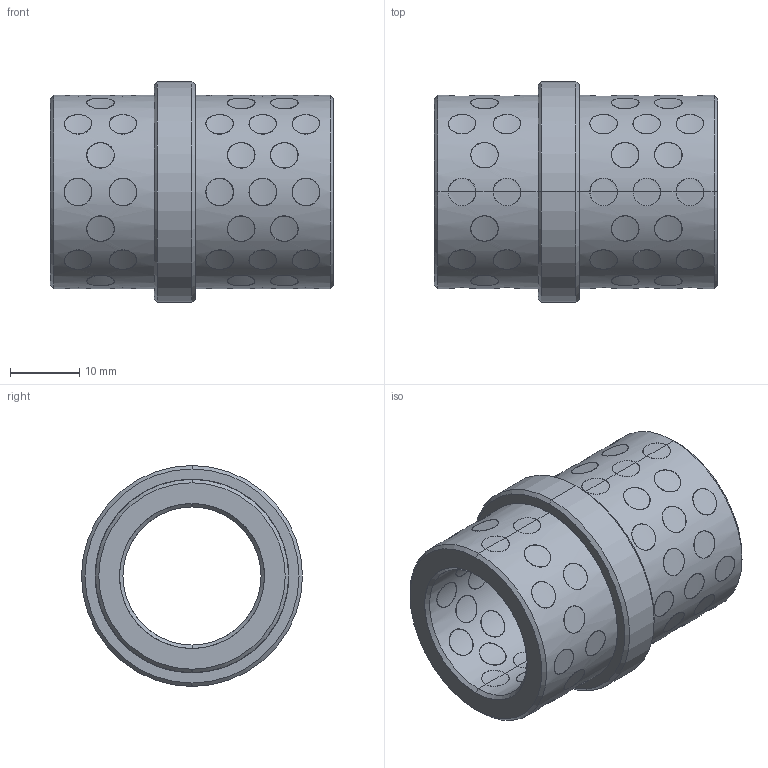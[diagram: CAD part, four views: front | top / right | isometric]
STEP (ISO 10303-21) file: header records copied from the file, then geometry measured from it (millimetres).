
FILE_DESCRIPTION(('CATIA V5 STEP Exchange'),'2;1');
FILE_NAME('C:\Users\Utente\Desktop\3D files G402\G4022026.stp','2020-04-22T08:42:46+00:00',('none'),('none'),'CATIA Version 5 Release 20 GA (IN-10)','CATIA V5 STEP AP203','none');
FILE_SCHEMA(('CONFIG_CONTROL_DESIGN'));
Products named in the file (1): G4022026
Bounding box: 41 x 32 x 32 mm (x, y, z)
Surface area: 13489.8 mm2 (no closed solid volume)
Topology: 0 solids, 428 shells, 428 faces, 1872 edges, 1872 vertices
Faces by surface type: cylinder 412, revolution 12, plane 4
Entity records: 37597 total; most frequent: CARTESIAN_POINT 24628, ORIENTED_EDGE 1872, EDGE_CURVE 1872, VERTEX_POINT 1872, DIRECTION 1523, B_SPLINE_CURVE_WITH_KNOTS 1205, VECTOR 632, LINE 632
